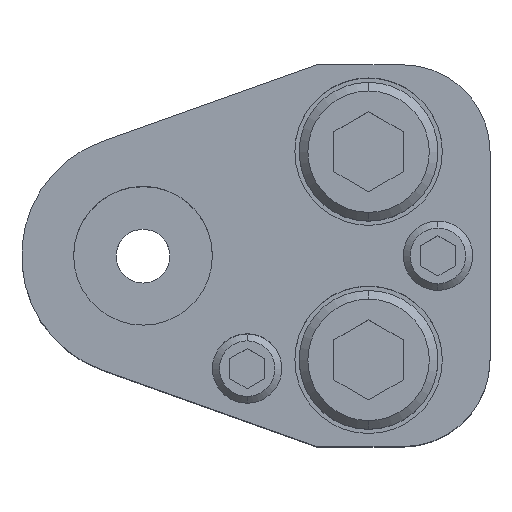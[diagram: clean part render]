
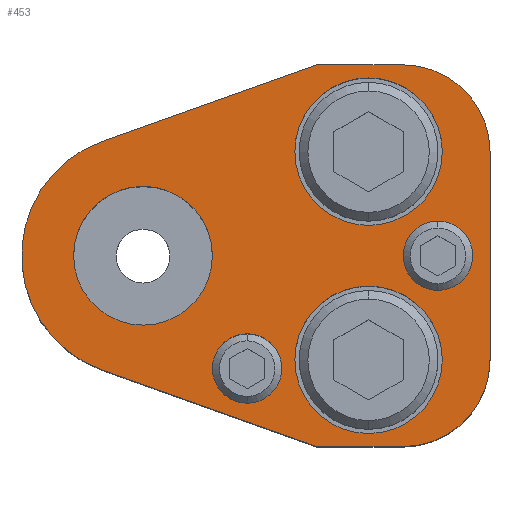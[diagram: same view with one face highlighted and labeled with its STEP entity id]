
A CAD part, top view. The second image highlights one B-rep face of the part: STEP entity #453.
In plain terms, the highlighted planar face has unit normal (0, 0, 1).
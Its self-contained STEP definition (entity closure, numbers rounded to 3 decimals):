
#207=FACE_BOUND('',#813,.T.);
#208=FACE_BOUND('',#814,.T.);
#209=FACE_BOUND('',#815,.T.);
#210=FACE_BOUND('',#816,.T.);
#211=FACE_BOUND('',#817,.T.);
#212=FACE_BOUND('',#818,.T.);
#273=CIRCLE('',#2646,14.);
#275=CIRCLE('',#2651,10.);
#277=CIRCLE('',#2655,10.);
#279=CIRCLE('',#2660,4.);
#281=CIRCLE('',#2663,4.);
#283=CIRCLE('',#2666,4.);
#285=CIRCLE('',#2669,4.);
#295=CIRCLE('',#2684,8.5);
#296=CIRCLE('',#2685,8.5);
#297=CIRCLE('',#2686,8.5);
#298=CIRCLE('',#2687,8.5);
#299=CIRCLE('',#2688,8.);
#300=CIRCLE('',#2689,8.);
#453=ADVANCED_FACE('',(#207,#208,#209,#210,#211,#212),#585,.T.);
#585=PLANE('',#2690);
#813=EDGE_LOOP('',(#1147,#1148,#1149,#1150,#1151,#1152,#1153,#1154));
#814=EDGE_LOOP('',(#1155,#1156));
#815=EDGE_LOOP('',(#1157,#1158));
#816=EDGE_LOOP('',(#1159,#1160));
#817=EDGE_LOOP('',(#1161,#1162));
#818=EDGE_LOOP('',(#1163,#1164));
#1147=ORIENTED_EDGE('',*,*,#1934,.T.);
#1148=ORIENTED_EDGE('',*,*,#1938,.T.);
#1149=ORIENTED_EDGE('',*,*,#1941,.T.);
#1150=ORIENTED_EDGE('',*,*,#1944,.T.);
#1151=ORIENTED_EDGE('',*,*,#1947,.T.);
#1152=ORIENTED_EDGE('',*,*,#1950,.T.);
#1153=ORIENTED_EDGE('',*,*,#1953,.T.);
#1154=ORIENTED_EDGE('',*,*,#1956,.T.);
#1155=ORIENTED_EDGE('',*,*,#1981,.F.);
#1156=ORIENTED_EDGE('',*,*,#1982,.F.);
#1157=ORIENTED_EDGE('',*,*,#1983,.F.);
#1158=ORIENTED_EDGE('',*,*,#1984,.F.);
#1159=ORIENTED_EDGE('',*,*,#1967,.F.);
#1160=ORIENTED_EDGE('',*,*,#1963,.F.);
#1161=ORIENTED_EDGE('',*,*,#1961,.F.);
#1162=ORIENTED_EDGE('',*,*,#1957,.F.);
#1163=ORIENTED_EDGE('',*,*,#1985,.T.);
#1164=ORIENTED_EDGE('',*,*,#1986,.T.);
#1688=VERTEX_POINT('',#3846);
#1689=VERTEX_POINT('',#3848);
#1692=VERTEX_POINT('',#3855);
#1694=VERTEX_POINT('',#3861);
#1696=VERTEX_POINT('',#3867);
#1698=VERTEX_POINT('',#3873);
#1700=VERTEX_POINT('',#3879);
#1702=VERTEX_POINT('',#3885);
#1703=VERTEX_POINT('',#3893);
#1704=VERTEX_POINT('',#3894);
#1707=VERTEX_POINT('',#3905);
#1708=VERTEX_POINT('',#3906);
#1719=VERTEX_POINT('',#3941);
#1720=VERTEX_POINT('',#3942);
#1721=VERTEX_POINT('',#3945);
#1722=VERTEX_POINT('',#3946);
#1723=VERTEX_POINT('',#3949);
#1724=VERTEX_POINT('',#3950);
#1934=EDGE_CURVE('',#1689,#1688,#273,.T.);
#1938=EDGE_CURVE('',#1688,#1692,#2266,.T.);
#1941=EDGE_CURVE('',#1692,#1694,#2269,.T.);
#1944=EDGE_CURVE('',#1694,#1696,#275,.T.);
#1947=EDGE_CURVE('',#1696,#1698,#2273,.T.);
#1950=EDGE_CURVE('',#1698,#1700,#277,.T.);
#1953=EDGE_CURVE('',#1700,#1702,#2277,.T.);
#1956=EDGE_CURVE('',#1702,#1689,#2280,.T.);
#1957=EDGE_CURVE('',#1703,#1704,#279,.T.);
#1961=EDGE_CURVE('',#1704,#1703,#281,.T.);
#1963=EDGE_CURVE('',#1707,#1708,#283,.T.);
#1967=EDGE_CURVE('',#1708,#1707,#285,.T.);
#1981=EDGE_CURVE('',#1719,#1720,#295,.T.);
#1982=EDGE_CURVE('',#1720,#1719,#296,.T.);
#1983=EDGE_CURVE('',#1721,#1722,#297,.T.);
#1984=EDGE_CURVE('',#1722,#1721,#298,.T.);
#1985=EDGE_CURVE('',#1723,#1724,#299,.T.);
#1986=EDGE_CURVE('',#1724,#1723,#300,.T.);
#2266=LINE('',#3856,#2458);
#2269=LINE('',#3862,#2461);
#2273=LINE('',#3874,#2465);
#2277=LINE('',#3886,#2469);
#2280=LINE('',#3890,#2472);
#2458=VECTOR('',#3056,1.);
#2461=VECTOR('',#3061,1.);
#2465=VECTOR('',#3073,1.);
#2469=VECTOR('',#3085,1.);
#2472=VECTOR('',#3090,1.);
#2646=AXIS2_PLACEMENT_3D('',#3847,#3048,#3049);
#2651=AXIS2_PLACEMENT_3D('',#3868,#3066,#3067);
#2655=AXIS2_PLACEMENT_3D('',#3880,#3078,#3079);
#2660=AXIS2_PLACEMENT_3D('',#3892,#3093,#3094);
#2663=AXIS2_PLACEMENT_3D('',#3901,#3101,#3102);
#2666=AXIS2_PLACEMENT_3D('',#3904,#3107,#3108);
#2669=AXIS2_PLACEMENT_3D('',#3913,#3115,#3116);
#2684=AXIS2_PLACEMENT_3D('',#3940,#3149,#3150);
#2685=AXIS2_PLACEMENT_3D('',#3943,#3151,#3152);
#2686=AXIS2_PLACEMENT_3D('',#3944,#3153,#3154);
#2687=AXIS2_PLACEMENT_3D('',#3947,#3155,#3156);
#2688=AXIS2_PLACEMENT_3D('',#3948,#3157,#3158);
#2689=AXIS2_PLACEMENT_3D('',#3951,#3159,#3160);
#2690=AXIS2_PLACEMENT_3D('',#3952,#3161,#3162);
#3048=DIRECTION('',(0.,0.,1.));
#3049=DIRECTION('',(0.,1.,0.));
#3056=DIRECTION('',(0.942,-0.336,0.));
#3061=DIRECTION('',(1.,0.,0.));
#3066=DIRECTION('',(0.,0.,1.));
#3067=DIRECTION('',(-0.707,0.707,0.));
#3073=DIRECTION('',(0.,1.,0.));
#3078=DIRECTION('',(0.,0.,1.));
#3079=DIRECTION('',(-0.707,-0.707,0.));
#3085=DIRECTION('',(-1.,0.,0.));
#3090=DIRECTION('',(-0.942,-0.336,0.));
#3093=DIRECTION('',(0.,0.,1.));
#3094=DIRECTION('',(1.,0.,0.));
#3101=DIRECTION('',(0.,0.,1.));
#3102=DIRECTION('',(-1.,0.,0.));
#3107=DIRECTION('',(0.,0.,1.));
#3108=DIRECTION('',(1.,0.,0.));
#3115=DIRECTION('',(0.,0.,1.));
#3116=DIRECTION('',(-1.,0.,0.));
#3149=DIRECTION('',(0.,0.,1.));
#3150=DIRECTION('',(1.,0.,0.));
#3151=DIRECTION('',(0.,0.,1.));
#3152=DIRECTION('',(-1.,0.,0.));
#3153=DIRECTION('',(0.,0.,1.));
#3154=DIRECTION('',(1.,0.,0.));
#3155=DIRECTION('',(0.,0.,1.));
#3156=DIRECTION('',(-1.,0.,0.));
#3157=DIRECTION('',(0.,0.,-1.));
#3158=DIRECTION('',(-1.,0.,0.));
#3159=DIRECTION('',(0.,0.,-1.));
#3160=DIRECTION('',(1.,0.,0.));
#3161=DIRECTION('',(0.,0.,1.));
#3162=DIRECTION('',(0.942,0.336,0.));
#3846=CARTESIAN_POINT('',(-4.704,-13.186,35.));
#3847=CARTESIAN_POINT('',(0.,0.,35.));
#3848=CARTESIAN_POINT('',(-4.704,13.186,35.));
#3855=CARTESIAN_POINT('',(20.,-22.,35.));
#3856=CARTESIAN_POINT('',(20.,-22.,35.));
#3861=CARTESIAN_POINT('',(30.,-22.,35.));
#3862=CARTESIAN_POINT('',(20.,-22.,35.));
#3867=CARTESIAN_POINT('',(40.,-12.,35.));
#3868=CARTESIAN_POINT('',(30.,-12.,35.));
#3873=CARTESIAN_POINT('',(40.,12.,35.));
#3874=CARTESIAN_POINT('',(40.,-12.,35.));
#3879=CARTESIAN_POINT('',(30.,22.,35.));
#3880=CARTESIAN_POINT('',(30.,12.,35.));
#3885=CARTESIAN_POINT('',(20.,22.,35.));
#3886=CARTESIAN_POINT('',(20.,22.,35.));
#3890=CARTESIAN_POINT('',(20.,22.,35.));
#3892=CARTESIAN_POINT('',(12.,-13.,35.));
#3893=CARTESIAN_POINT('',(12.,-9.,35.));
#3894=CARTESIAN_POINT('',(12.,-17.,35.));
#3901=CARTESIAN_POINT('',(12.,-13.,35.));
#3904=CARTESIAN_POINT('',(34.,0.,35.));
#3905=CARTESIAN_POINT('',(34.,4.,35.));
#3906=CARTESIAN_POINT('',(34.,-4.,35.));
#3913=CARTESIAN_POINT('',(34.,0.,35.));
#3940=CARTESIAN_POINT('',(26.,-12.,35.));
#3941=CARTESIAN_POINT('',(26.,-3.5,35.));
#3942=CARTESIAN_POINT('',(26.,-20.5,35.));
#3943=CARTESIAN_POINT('',(26.,-12.,35.));
#3944=CARTESIAN_POINT('',(26.,12.,35.));
#3945=CARTESIAN_POINT('',(26.,20.5,35.));
#3946=CARTESIAN_POINT('',(26.,3.5,35.));
#3947=CARTESIAN_POINT('',(26.,12.,35.));
#3948=CARTESIAN_POINT('',(0.,0.,35.));
#3949=CARTESIAN_POINT('',(0.,8.,35.));
#3950=CARTESIAN_POINT('',(0.,-8.,35.));
#3951=CARTESIAN_POINT('',(0.,0.,35.));
#3952=CARTESIAN_POINT('',(-4.704,13.186,35.));
